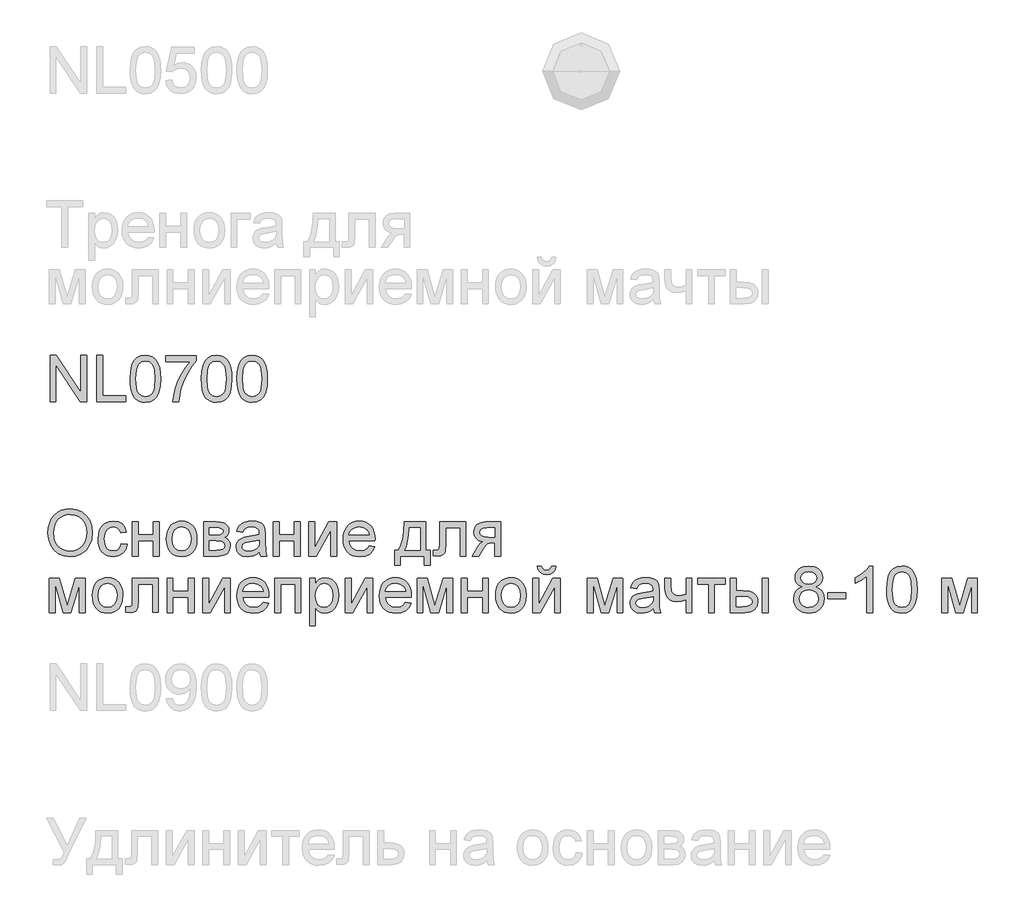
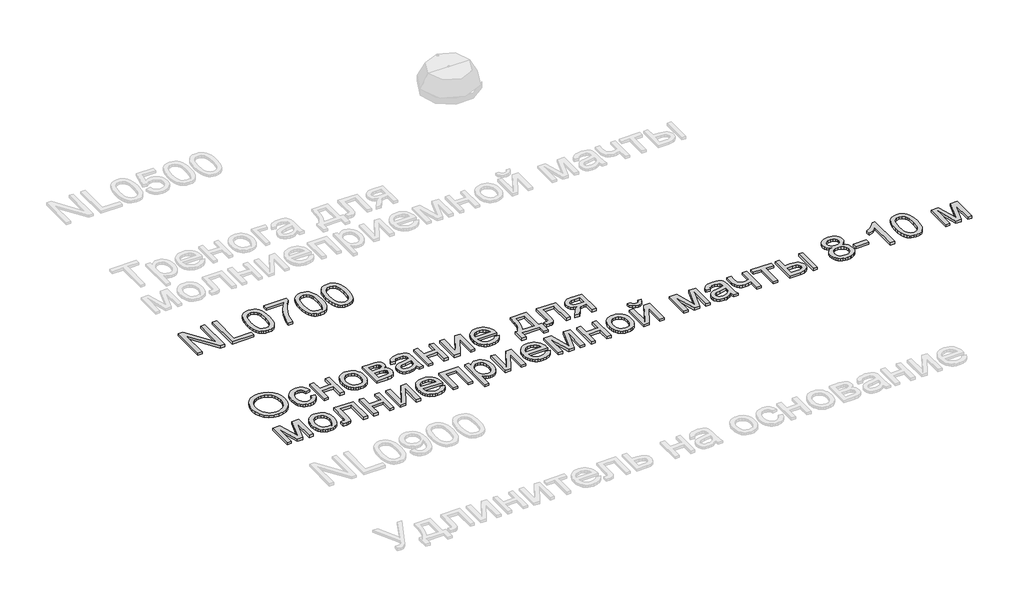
# One storey, part 54 of 124: 2 proxies.
"""IFC4 building model written with IfcOpenShell, lengths in millimetres."""

from ifc_helpers import new_model, si_unit, origin, origin_with_axes, place, context, project, spatial, polyline, outline, extrude, element, save

model = new_model("IFC4")

# Units and contexts
model_context = context("Model", 3, world=origin())
ifc_project = project(units=[si_unit("LENGTHUNIT", "METRE", prefix="MILLI")], contexts=[model_context])

# Site, building, storey
site = spatial("IfcSite", under=ifc_project)
building = spatial("IfcBuilding", under=site)
storey = spatial("IfcBuildingStorey", under=building, Name="Этаж 01", Elevation=0.0)

# Proxies
placement = place(None, origin())
element("IfcBuildingElementProxy", 1, Name="300", ObjectType="300", at=placement, inside=storey, context=model_context, shape_type="SweptSolid", body=[
    extrude(outline(polyline([(1299.8220677, -59074.498362), (1299.8220677, -58773.1294316), (1340.1419344, -58773.1294316), (1497.5954283, -59011.8848464), (1497.5954283, -58773.1294316), (1535.2665446, -58773.1294316), (1535.2665446, -59074.498362), (1494.9466779, -59074.498362), (1337.493184, -58835.6693707), (1337.493184, -59074.498362), (1299.8220677, -59074.498362)])), origin_with_axes(), (0.0, 0.0, 1.0), 20.0),
    extrude(outline(polyline([(1601.1909981, -59074.498362), (1601.1909981, -58773.1294316), (1638.8621144, -58773.1294316), (1638.8621144, -59036.8272457), (1789.5465797, -59036.8272457), (1789.5465797, -59074.498362), (1601.1909981, -59074.498362)])), origin_with_axes(), (0.0, 0.0, 1.0), 20.0),
    extrude(outline(polyline([(1817.7999169, -58926.2419179), (1820.5682289, -58878.0033913), (1828.873165, -58839.5321317), (1842.6319516, -58810.2395278), (1861.7618153, -58789.5369685), (1886.400712, -58777.2313158), (1916.6865972, -58773.1294316), (1939.8999511, -58775.5574527), (1960.6852838, -58782.8415162), (1978.0677081, -58794.6965135), (1991.0723366, -58810.8373361), (2000.8947859, -58831.1260281), (2008.7306724, -58855.4246339), (2013.8626262, -58886.2807362), (2015.5732775, -58926.2419179), (2012.8325566, -58974.2045331), (2004.6103941, -59012.5838222), (1990.9343809, -59041.9040172), (1971.8321083, -59062.68935), (1947.1380294, -59075.0777761), (1916.6865972, -59079.2072515), (1895.9380527, -59077.4138268), (1877.5439529, -59072.0335526), (1861.5042979, -59063.066429), (1847.8190877, -59050.5124559), (1834.6857005, -59027.8187353), (1825.3047096, -58999.5424055), (1819.6761151, -58965.6834664), (1817.7999169, -58926.2419179)]), holes=[polyline([(1855.4710332, -58926.1683415), (1859.8856172, -58985.4249339), (1865.4038471, -59005.6929326), (1873.129369, -59019.7207329), (1892.8478439, -59036.0822847), (1916.6865972, -59041.5361352), (1940.5253505, -59036.0638906), (1960.2438254, -59019.6471565), (1967.9693473, -59005.5963636), (1973.4875773, -58985.3329634), (1977.9021612, -58926.1683415), (1973.6347301, -58868.2453214), (1968.3004411, -58848.0440013), (1960.8324366, -58833.682808), (1941.1507499, -58816.5211129), (1916.2451388, -58810.8005479), (1892.6639029, -58815.8405312), (1873.7179802, -58830.9604812), (1865.7349409, -58846.595466), (1860.0327699, -58867.6751043), (1855.4710332, -58926.1683415)])]), origin_with_axes(), (0.0, 0.0, 1.0), 20.0),
    extrude(outline(polyline([(2048.5355043, -58815.5094374), (2048.5355043, -58777.8383211), (2246.3088649, -58777.8383211), (2246.3088649, -58808.2989503), (2218.119907, -58843.9743068), (2190.2068606, -58889.3433538), (2165.5863581, -58940.267419), (2147.2750318, -58992.6078299), (2138.2987111, -59031.7688683), (2133.295516, -59074.498362), (2095.6243997, -59074.498362), (2099.6986928, -59035.6684174), (2110.5971969, -58989.5176211), (2128.0256064, -58940.5985128), (2151.6896157, -58893.4636322), (2179.3175536, -58850.8537001), (2208.6377486, -58815.5094374), (2048.5355043, -58815.5094374)])), origin_with_axes(), (0.0, 0.0, 1.0), 20.0),
    extrude(outline(polyline([(2279.2710917, -58926.2419179), (2282.0394037, -58878.0033913), (2290.3443397, -58839.5321317), (2304.1031263, -58810.2395278), (2323.2329901, -58789.5369685), (2347.8718867, -58777.2313158), (2378.157772, -58773.1294316), (2401.3711259, -58775.5574527), (2422.1564586, -58782.8415162), (2439.5388829, -58794.6965135), (2452.5435114, -58810.8373361), (2462.3659607, -58831.1260281), (2470.2018471, -58855.4246339), (2475.333801, -58886.2807362), (2477.0444523, -58926.2419179), (2474.3037314, -58974.2045331), (2466.0815688, -59012.5838222), (2452.4055556, -59041.9040172), (2433.303283, -59062.68935), (2408.6092041, -59075.0777761), (2378.157772, -59079.2072515), (2357.4092274, -59077.4138268), (2339.0151277, -59072.0335526), (2322.9754727, -59063.066429), (2309.2902625, -59050.5124559), (2296.1568752, -59027.8187353), (2286.7758844, -58999.5424055), (2281.1472898, -58965.6834664), (2279.2710917, -58926.2419179)]), holes=[polyline([(2316.942208, -58926.1683415), (2321.3567919, -58985.4249339), (2326.8750218, -59005.6929326), (2334.6005437, -59019.7207329), (2354.3190187, -59036.0822847), (2378.157772, -59041.5361352), (2401.9965252, -59036.0638906), (2421.7150002, -59019.6471565), (2429.4405221, -59005.5963636), (2434.958752, -58985.3329634), (2439.373336, -58926.1683415), (2435.1059048, -58868.2453214), (2429.7716159, -58848.0440013), (2422.3036114, -58833.682808), (2402.6219246, -58816.5211129), (2377.7163136, -58810.8005479), (2354.1350777, -58815.8405312), (2335.1891549, -58830.9604812), (2327.2061156, -58846.595466), (2321.5039447, -58867.6751043), (2316.942208, -58926.1683415)])]), origin_with_axes(), (0.0, 0.0, 1.0), 20.0),
    extrude(outline(polyline([(2510.006679, -58926.2419179), (2512.774991, -58878.0033913), (2521.0799271, -58839.5321317), (2534.8387137, -58810.2395278), (2553.9685775, -58789.5369685), (2578.6074741, -58777.2313158), (2608.8933593, -58773.1294316), (2632.1067132, -58775.5574527), (2652.892046, -58782.8415162), (2670.2744702, -58794.6965135), (2683.2790988, -58810.8373361), (2693.101548, -58831.1260281), (2700.9374345, -58855.4246339), (2706.0693884, -58886.2807362), (2707.7800396, -58926.2419179), (2705.0393188, -58974.2045331), (2696.8171562, -59012.5838222), (2683.141143, -59041.9040172), (2664.0388704, -59062.68935), (2639.3447915, -59075.0777761), (2608.8933593, -59079.2072515), (2588.1448148, -59077.4138268), (2569.750715, -59072.0335526), (2553.7110601, -59063.066429), (2540.0258498, -59050.5124559), (2526.8924626, -59027.8187353), (2517.5114717, -58999.5424055), (2511.8828772, -58965.6834664), (2510.006679, -58926.2419179)]), holes=[polyline([(2547.6777953, -58926.1683415), (2552.0923793, -58985.4249339), (2557.6106092, -59005.6929326), (2565.3361311, -59019.7207329), (2585.054606, -59036.0822847), (2608.8933593, -59041.5361352), (2632.7321126, -59036.0638906), (2652.4505876, -59019.6471565), (2660.1761095, -59005.5963636), (2665.6943394, -58985.3329634), (2670.1089233, -58926.1683415), (2665.8414922, -58868.2453214), (2660.5072033, -58848.0440013), (2653.0391988, -58833.682808), (2633.357512, -58816.5211129), (2608.4519009, -58810.8005479), (2584.870665, -58815.8405312), (2565.9247423, -58830.9604812), (2557.941703, -58846.595466), (2552.2395321, -58867.6751043), (2547.6777953, -58926.1683415)])]), origin_with_axes(), (0.0, 0.0, 1.0), 20.0),
])
element("IfcBuildingElementProxy", 2, Name="300", ObjectType="300", at=placement, inside=storey, context=model_context, shape_type="SweptSolid", body=[
    extrude(outline(polyline([(1285.6953991, -59927.7870223), (1288.2061937, -59892.4381611), (1295.7385775, -59861.1451989), (1308.2925506, -59833.9081357), (1325.868113, -59810.7269715), (1347.4122023, -59792.2179086), (1371.8717564, -59778.9971494), (1399.2467754, -59771.0646939), (1429.5372592, -59768.420542), (1469.0661796, -59773.3869489), (1504.5116098, -59788.2861698), (1533.9421694, -59812.0697407), (1555.4264779, -59843.6891982), (1568.5598652, -59881.6178319), (1572.9376609, -59924.3289316), (1568.3299389, -59967.6102483), (1554.506773, -60006.0723109), (1532.2315181, -60037.7469507), (1502.2675296, -60060.665999), (1467.1256021, -60074.5719384), (1429.31653, -60079.2072515), (1389.1806043, -60074.0844948), (1353.532839, -60058.7162244), (1324.1758558, -60034.491195), (1302.9122765, -60002.7981611), (1289.9996184, -59966.3318584), (1285.6953991, -59927.7870223)]), holes=[polyline([(1323.3665154, -59928.1549043), (1325.2496113, -59953.1294933), (1330.8988992, -59975.298982), (1340.3143791, -59994.6633705), (1353.4960508, -60011.2226588), (1369.5196109, -60024.4848048), (1387.460756, -60033.9577661), (1407.3194859, -60039.641543), (1429.0958008, -60041.5361352), (1451.2445962, -60039.6231489), (1471.3378509, -60033.8841897), (1489.375565, -60024.3192579), (1505.3577384, -60010.9283532), (1518.4428411, -59994.019577), (1527.7893431, -59973.9010304), (1533.3972442, -59950.5727134), (1535.2665446, -59924.034626), (1532.0659712, -59890.6861231), (1522.4642512, -59861.8625688), (1506.7097047, -59838.2905299), (1485.0506523, -59820.6965735), (1458.9218336, -59809.7428871), (1429.7579884, -59806.0916583), (1408.7381309, -59807.8505941), (1389.2357866, -59813.1274015), (1371.2509556, -59821.9220804), (1354.7836378, -59834.234631), (1341.0386467, -59850.6582628), (1331.220796, -59871.7861856), (1325.3300855, -59897.6183995), (1323.3665154, -59928.1549043)])]), origin_with_axes(), (0.0, 0.0, 1.0), 20.0),
    extrude(outline(polyline([(1761.2932424, -59994.4472399), (1798.9643587, -59999.1561294), (1788.4613278, -60032.6609821), (1768.7244587, -60057.9804604), (1741.6115557, -60073.9005538), (1708.9804227, -60079.2072515), (1687.8524999, -60077.3563453), (1668.9088764, -60071.8036264), (1652.1495523, -60062.5490949), (1637.5745275, -60049.5927509), (1625.7770117, -60033.1783162), (1617.3502148, -60013.5495125), (1612.2941366, -59990.7063398), (1610.6087772, -59964.6487982), (1613.4874538, -59931.1255514), (1622.1234837, -59902.0720709), (1636.6548225, -59878.6103966), (1657.219426, -59861.8625688), (1681.8215344, -59851.8193903), (1708.4653879, -59848.4716642), (1740.2963776, -59853.0701891), (1765.7446146, -59866.8657639), (1784.0007586, -59889.1226246), (1794.2554692, -59919.1050072), (1756.5843529, -59923.8138968), (1749.7509448, -59907.3787686), (1739.1099581, -59895.5973477), (1725.250004, -59888.5064223), (1708.7596935, -59886.1427805), (1684.4151025, -59890.7964877), (1665.0921007, -59904.7576094), (1652.4829453, -59928.7803037), (1648.2798935, -59963.6187287), (1652.3909748, -59998.9262031), (1664.7242187, -60023.0316709), (1683.6977326, -60036.9100191), (1707.7296239, -60041.5361352), (1727.2365667, -60038.6482616), (1743.2302365, -60029.9846406), (1754.8645046, -60015.3245431), (1761.2932424, -59994.4472399)])), origin_with_axes(), (0.0, 0.0, 1.0), 20.0),
    extrude(outline(polyline([(1831.9265855, -59853.1805537), (1869.5977018, -59853.1805537), (1869.5977018, -59937.9405654), (1968.4843821, -59937.9405654), (1968.4843821, -59853.1805537), (2006.1554984, -59853.1805537), (2006.1554984, -60074.498362), (1968.4843821, -60074.498362), (1968.4843821, -59975.6116817), (1869.5977018, -59975.6116817), (1869.5977018, -60074.498362), (1831.9265855, -60074.498362), (1831.9265855, -59853.1805537)])), origin_with_axes(), (0.0, 0.0, 1.0), 20.0),
    extrude(outline(polyline([(2053.2443938, -59963.8394579), (2055.2815404, -59935.1768519), (2061.39298, -59910.4781745), (2071.5787128, -59889.7434255), (2085.8387386, -59872.972605), (2100.1953335, -59862.2534434), (2116.0418504, -59854.5968994), (2133.3782894, -59850.002973), (2152.2046505, -59848.4716642), (2172.987684, -59850.336366), (2191.7795561, -59855.9304716), (2208.580267, -59865.2539809), (2223.3898166, -59878.306894), (2235.4770394, -59894.6477523), (2244.11077, -59913.8350977), (2249.2910083, -59935.8689299), (2251.0177544, -59960.7492491), (2247.9643339, -59998.8066415), (2238.8040722, -60027.7773486), (2223.8036838, -60049.4731893), (2203.2298832, -60065.7059823), (2178.7933217, -60075.8319342), (2152.2046505, -60079.2072515), (2131.1181144, -60077.3494475), (2112.1514983, -60071.7760352), (2095.3048022, -60062.4870149), (2080.5780261, -60049.4823863), (2068.619562, -60032.9828788), (2060.0778019, -60013.2092216), (2054.9527458, -59990.1614146), (2053.2443938, -59963.8394579)]), holes=[polyline([(2090.9155101, -59963.7658815), (2095.2749118, -59997.8593454), (2108.3531167, -60022.1487541), (2128.0348034, -60036.6892899), (2152.2046505, -60041.5361352), (2176.264133, -60036.6616988), (2195.9090315, -60022.0383895), (2208.9872365, -59997.427084), (2213.3466381, -59962.5886591), (2208.9596453, -59929.4884766), (2195.7986669, -59905.5301616), (2176.1261773, -59890.9896258), (2152.2046505, -59886.1427805), (2128.0348034, -59890.9712317), (2108.3531167, -59905.4565852), (2095.2749118, -59929.6908117), (2090.9155101, -59963.7658815)])]), origin_with_axes(), (0.0, 0.0, 1.0), 20.0),
    extrude(outline(polyline([(2293.3977603, -59853.1805537), (2376.3919384, -59853.1805537), (2403.0725801, -59854.4405495), (2421.8989412, -59858.220537), (2435.7496983, -59865.3574477), (2447.503528, -59876.6882132), (2455.5325526, -59891.4494783), (2458.2088941, -59908.8778878), (2456.5902133, -59922.9217829), (2451.734171, -59935.0342976), (2443.622373, -59945.2706141), (2432.2364252, -59953.6859148), (2446.1791529, -59961.5126042), (2457.5467065, -59974.1033655), (2465.1066815, -59990.4649173), (2467.6266732, -60009.6039781), (2461.2439206, -60038.3171678), (2446.0687883, -60058.5322834), (2422.046094, -60070.5068424), (2389.1206554, -60074.498362), (2293.3977603, -60074.498362), (2293.3977603, -59853.1805537)]), holes=[polyline([(2331.0688766, -60036.8272457), (2377.2748552, -60036.8272457), (2402.4563777, -60035.1257915), (2418.2569094, -60030.0214288), (2426.7365894, -60020.7416055), (2429.9555569, -60006.5137693), (2428.3460731, -59997.0867932), (2423.517622, -59988.3771869), (2416.1047998, -59981.562173), (2406.742203, -59977.8189737), (2373.5960352, -59975.6116817), (2331.0688766, -59975.6116817), (2331.0688766, -60036.8272457)]), polyline([(2331.0688766, -59937.9405654), (2368.2985345, -59937.9405654), (2399.0166811, -59936.027579), (2413.9526901, -59928.3756335), (2418.8915059, -59922.0480632), (2420.5377778, -59914.5432705), (2417.6499041, -59903.3044755), (2408.9862832, -59896.0755943), (2393.3329043, -59892.1576511), (2369.4757569, -59890.85167), (2331.0688766, -59890.85167), (2331.0688766, -59937.9405654)])]), origin_with_axes(), (0.0, 0.0, 1.0), 20.0),
    extrude(outline(polyline([(2655.9822547, -60046.2450248), (2637.9836281, -60061.6776745), (2619.4515726, -60071.7760352), (2599.9630239, -60077.3494475), (2579.0949177, -60079.2072515), (2547.613416, -60074.7374853), (2524.390865, -60061.3281866), (2510.0710584, -60040.9659181), (2505.2977895, -60015.6372428), (2507.1004113, -60000.0206521), (2512.5082766, -59985.8388012), (2520.8500008, -59973.6986953), (2531.4541993, -59964.2073398), (2557.8313384, -59951.8465048), (2590.4256832, -59946.1811221), (2628.9429281, -59940.2214338), (2655.7615255, -59933.2316759), (2655.9822547, -59924.8439664), (2653.3886866, -59908.0317592), (2645.6079824, -59897.0320875), (2628.2071641, -59888.8651072), (2603.9637406, -59886.1427805), (2581.5229389, -59887.9545993), (2565.8511659, -59893.3900558), (2555.1641939, -59903.4424313), (2547.6777953, -59919.1050072), (2510.006679, -59914.3961177), (2516.5457815, -59893.794726), (2526.3038514, -59877.6079182), (2540.1913967, -59865.228689), (2559.1189254, -59856.0500333), (2582.2678999, -59850.3662564), (2608.8197829, -59848.4716642), (2634.286414, -59850.1455272), (2654.4739385, -59855.1671165), (2669.6950561, -59862.7178944), (2680.2624664, -59871.9793237), (2687.2706184, -59883.4296508), (2691.813961, -59897.5471223), (2693.653371, -59930.5093491), (2693.653371, -59977.3775153), (2695.5663574, -60042.8237222), (2703.0711501, -60074.498362), (2665.4000338, -60074.498362), (2655.9822547, -60046.2450248)]), holes=[polyline([(2655.9822547, -59970.9027922), (2595.2081491, -59982.4542868), (2562.7977453, -59988.5611279), (2548.1192537, -59998.4939418), (2542.9689058, -60012.9884924), (2545.774006, -60024.1904992), (2554.1893066, -60033.3691549), (2568.0308667, -60039.4943902), (2587.1147452, -60041.5361352), (2607.348255, -60039.282858), (2625.2273199, -60032.5230264), (2639.7218705, -60022.5626213), (2649.8018372, -60010.707624), (2654.2716034, -59998.4939418), (2655.7615255, -59981.57137), (2655.9822547, -59970.9027922)])]), origin_with_axes(), (0.0, 0.0, 1.0), 20.0),
    extrude(outline(polyline([(2745.4511559, -59853.1805537), (2783.1222722, -59853.1805537), (2783.1222722, -59937.9405654), (2882.0089526, -59937.9405654), (2882.0089526, -59853.1805537), (2919.6800689, -59853.1805537), (2919.6800689, -60074.498362), (2882.0089526, -60074.498362), (2882.0089526, -59975.6116817), (2783.1222722, -59975.6116817), (2783.1222722, -60074.498362), (2745.4511559, -60074.498362), (2745.4511559, -59853.1805537)])), origin_with_axes(), (0.0, 0.0, 1.0), 20.0),
    extrude(outline(polyline([(2976.1867433, -59853.1805537), (3013.8578596, -59853.1805537), (3013.8578596, -60021.9648131), (3106.4169696, -59853.1805537), (3155.1245458, -59853.1805537), (3155.1245458, -60074.498362), (3117.4534295, -60074.498362), (3117.4534295, -59906.7441722), (3025.4829307, -60074.498362), (2976.1867433, -60074.498362), (2976.1867433, -59853.1805537)])), origin_with_axes(), (0.0, 0.0, 1.0), 20.0),
    extrude(outline(polyline([(3366.5831166, -60008.5739085), (3403.5184689, -60013.282798), (3390.2103377, -60041.1130709), (3368.9743496, -60061.9167978), (3340.288751, -60074.8846381), (3304.6317886, -60079.2072515), (3281.2574863, -60077.3425497), (3260.4307669, -60071.7484441), (3242.1516303, -60062.4249348), (3226.4200764, -60049.3720217), (3213.7695343, -60032.9529884), (3204.7334328, -60013.5311184), (3199.3117719, -59991.1064115), (3197.5045516, -59965.6788678), (3199.330166, -59939.3891007), (3204.8070092, -59916.2171336), (3213.9350812, -59896.1629663), (3226.714382, -59879.226599), (3242.4045491, -59865.771315), (3260.26522, -59856.1603979), (3280.2963946, -59850.3938476), (3302.498073, -59848.4716642), (3323.9846808, -59850.3892491), (3343.415748, -59856.1420038), (3360.7912744, -59865.7299283), (3376.1112603, -59879.1530226), (3388.6169488, -59896.0526017), (3397.5495835, -59916.0699808), (3402.9091644, -59939.2051598), (3404.6956913, -59965.4581386), (3404.4749621, -59975.6116817), (3235.1756679, -59975.6116817), (3241.6963763, -60003.8098366), (3256.8439174, -60024.5399871), (3278.705305, -60037.2870982), (3305.3675526, -60041.5361352), (3325.4171213, -60039.5679666), (3342.3029049, -60033.6634605), (3356.0249033, -60023.4547352), (3366.5831166, -60008.5739085)]), holes=[polyline([(3235.1756679, -59937.9405654), (3367.024575, -59937.9405654), (3361.9294094, -59918.0381495), (3351.9414132, -59903.8011162), (3329.9788581, -59890.5573644), (3302.3509202, -59886.1427805), (3276.9578655, -59889.6652506), (3255.9610006, -59900.2326609), (3241.3652825, -59916.7045772), (3235.1756679, -59937.9405654)])]), origin_with_axes(), (0.0, 0.0, 1.0), 20.0),
    extrude(outline(polyline([(3593.0512728, -59853.1805537), (3734.317959, -59853.1805537), (3734.317959, -60036.8272457), (3762.5712962, -60036.8272457), (3762.5712962, -60135.713926), (3724.9001799, -60135.713926), (3724.9001799, -60074.498362), (3569.5068251, -60074.498362), (3569.5068251, -60135.713926), (3531.8357088, -60135.713926), (3531.8357088, -60036.8272457), (3555.3801565, -60036.8272457), (3572.4958663, -60005.897567), (3584.4796223, -59964.979892), (3591.3314245, -59914.074221), (3593.0512728, -59853.1805537)]), holes=[polyline([(3626.0134996, -59890.85167), (3622.9232908, -59936.9748752), (3617.1843317, -59976.6785395), (3608.7966222, -60009.962663), (3597.7601624, -60036.8272457), (3696.6468427, -60036.8272457), (3696.6468427, -59890.85167), (3626.0134996, -59890.85167)])]), origin_with_axes(), (0.0, 0.0, 1.0), 20.0),
    extrude(outline(polyline([(3823.7868602, -59853.1805537), (3993.3068836, -59853.1805537), (3993.3068836, -60074.2776328), (3955.6357673, -60074.2776328), (3955.6357673, -59890.85167), (3861.4579765, -59890.85167), (3861.4579765, -59996.4338026), (3858.9195907, -60045.1413788), (3854.164716, -60056.1686416), (3844.9768631, -60065.7059823), (3831.0341355, -60072.3002671), (3812.0146364, -60074.498362), (3781.4068544, -60072.5853756), (3781.4068544, -60036.8272457), (3798.2558497, -60036.8272457), (3815.2887861, -60034.5095891), (3822.094603, -60027.1519492), (3823.7868602, -59994.3000871), (3823.7868602, -59853.1805537)])), origin_with_axes(), (0.0, 0.0, 1.0), 20.0),
    extrude(outline(polyline([(4219.3335814, -59853.1805537), (4219.3335814, -60074.498362), (4181.6624651, -60074.498362), (4181.6624651, -59989.7383503), (4161.1346498, -59989.7383503), (4133.1756181, -59994.5208163), (4122.0103996, -60004.9502708), (4106.9088437, -60026.6737026), (4076.8896729, -60074.498362), (4033.3324447, -60074.498362), (4071.1507138, -60014.018562), (4087.8525563, -59992.3135243), (4103.2300237, -59982.675016), (4077.4782841, -59974.7839472), (4059.3784899, -59959.7927559), (4048.6731239, -59939.8535518), (4045.1046685, -59917.1184445), (4049.9791049, -59891.3299166), (4064.6024142, -59870.9124659), (4088.4595616, -59857.6135317), (4121.0355123, -59853.1805537), (4219.3335814, -59853.1805537)]), holes=[polyline([(4181.6624651, -59890.85167), (4131.9983958, -59890.85167), (4106.3478236, -59893.0313708), (4091.7888937, -59899.5704733), (4085.029062, -59909.0342376), (4082.7757848, -59919.987924), (4086.0959198, -59934.3445189), (4096.0563248, -59944.3049239), (4114.4596216, -59950.1266565), (4143.108432, -59952.067234), (4181.6624651, -59952.067234), (4181.6624651, -59890.85167)])]), origin_with_axes(), (0.0, 0.0, 1.0), 20.0),
    extrude(outline(polyline([(1295.1131782, -60219.1050072), (1359.9339857, -60219.1050072), (1409.8923607, -60396.2769761), (1463.7502847, -60219.1050072), (1525.8487655, -60219.1050072), (1525.8487655, -60440.4228155), (1488.1776492, -60440.4228155), (1488.1776492, -60262.2207771), (1434.0254195, -60440.4228155), (1384.5820794, -60440.4228155), (1332.7842945, -60253.6859148), (1332.7842945, -60440.4228155), (1295.1131782, -60440.4228155), (1295.1131782, -60219.1050072)])), origin_with_axes(), (0.0, 0.0, 1.0), 20.0),
    extrude(outline(polyline([(1572.9376609, -60329.7639114), (1574.9748075, -60301.1013054), (1581.0862471, -60276.402628), (1591.2719798, -60255.667879), (1605.5320057, -60238.8970586), (1619.8886005, -60228.1778969), (1635.7351175, -60220.5213529), (1653.0715565, -60215.9274265), (1671.8979176, -60214.3961177), (1692.6809511, -60216.2608196), (1711.4728232, -60221.8549252), (1728.2735341, -60231.1784345), (1743.0830837, -60244.2313475), (1755.1703065, -60260.5722059), (1763.8040371, -60279.7595512), (1768.9842754, -60301.7933834), (1770.7110215, -60326.6737026), (1767.657601, -60364.731095), (1758.4973393, -60393.7018022), (1743.4969509, -60415.3976428), (1722.9231503, -60431.6304359), (1698.4865888, -60441.7563878), (1671.8979176, -60445.1317051), (1650.8113815, -60443.273901), (1631.8447654, -60437.7004888), (1614.9980693, -60428.4114684), (1600.2712932, -60415.4068399), (1588.312829, -60398.9073324), (1579.771069, -60379.1336751), (1574.6460129, -60356.0858681), (1572.9376609, -60329.7639114)]), holes=[polyline([(1610.6087772, -60329.690335), (1614.9681789, -60363.7837989), (1628.0463838, -60388.0732076), (1647.7280705, -60402.6137435), (1671.8979176, -60407.4605888), (1695.9574001, -60402.5861523), (1715.6022986, -60387.962843), (1728.6805036, -60363.3515375), (1733.0399052, -60328.5131126), (1728.6529124, -60295.4129301), (1715.491934, -60271.4546152), (1695.8194444, -60256.9140793), (1671.8979176, -60252.067234), (1647.7280705, -60256.8956852), (1628.0463838, -60271.3810388), (1614.9681789, -60295.6152652), (1610.6087772, -60329.690335)])]), origin_with_axes(), (0.0, 0.0, 1.0), 20.0),
    extrude(outline(polyline([(1831.9265855, -60219.1050072), (2001.4466089, -60219.1050072), (2001.4466089, -60440.2020863), (1963.7754926, -60440.2020863), (1963.7754926, -60256.7761235), (1869.5977018, -60256.7761235), (1869.5977018, -60362.3582562), (1867.0593161, -60411.0658323), (1862.3044413, -60422.0930951), (1853.1165884, -60431.6304359), (1839.1738608, -60438.2247206), (1820.1543617, -60440.4228155), (1789.5465797, -60438.5098292), (1789.5465797, -60402.7516992), (1806.3955751, -60402.7516992), (1823.4285114, -60400.4340427), (1830.2343283, -60393.0764028), (1831.9265855, -60360.2245406), (1831.9265855, -60219.1050072)])), origin_with_axes(), (0.0, 0.0, 1.0), 20.0),
    extrude(outline(polyline([(2057.9532834, -60219.1050072), (2095.6243997, -60219.1050072), (2095.6243997, -60303.8650189), (2194.51108, -60303.8650189), (2194.51108, -60219.1050072), (2232.1821963, -60219.1050072), (2232.1821963, -60440.4228155), (2194.51108, -60440.4228155), (2194.51108, -60341.5361352), (2095.6243997, -60341.5361352), (2095.6243997, -60440.4228155), (2057.9532834, -60440.4228155), (2057.9532834, -60219.1050072)])), origin_with_axes(), (0.0, 0.0, 1.0), 20.0),
    extrude(outline(polyline([(2288.6888707, -60219.1050072), (2326.359987, -60219.1050072), (2326.359987, -60387.8892666), (2418.919097, -60219.1050072), (2467.6266732, -60219.1050072), (2467.6266732, -60440.4228155), (2429.9555569, -60440.4228155), (2429.9555569, -60272.6686257), (2337.9850581, -60440.4228155), (2288.6888707, -60440.4228155), (2288.6888707, -60219.1050072)])), origin_with_axes(), (0.0, 0.0, 1.0), 20.0),
    extrude(outline(polyline([(2679.085244, -60374.498362), (2716.0205963, -60379.2072515), (2702.7124652, -60407.0375245), (2681.476477, -60427.8412513), (2652.7908784, -60440.8090916), (2617.133916, -60445.1317051), (2593.7596138, -60443.2670032), (2572.9328943, -60437.6728976), (2554.6537577, -60428.3493883), (2538.9222038, -60415.2964753), (2526.2716617, -60398.877442), (2517.2355602, -60379.4555719), (2511.8138993, -60357.030865), (2510.006679, -60331.6033214), (2511.8322934, -60305.3135543), (2517.3091366, -60282.1415871), (2526.4372086, -60262.0874199), (2539.2165094, -60245.1510525), (2554.9066765, -60231.6957685), (2572.7673474, -60222.0848514), (2592.798522, -60216.3183011), (2615.0002005, -60214.3961177), (2636.4868082, -60216.3137026), (2655.9178754, -60222.0664573), (2673.2934018, -60231.6543818), (2688.6133877, -60245.0774761), (2701.1190763, -60261.9770553), (2710.051711, -60281.9944343), (2715.4112918, -60305.1296133), (2717.1978187, -60331.3825922), (2716.9770895, -60341.5361352), (2547.6777953, -60341.5361352), (2554.1985037, -60369.7342902), (2569.3460448, -60390.4644406), (2591.2074324, -60403.2115517), (2617.86968, -60407.4605888), (2637.9192488, -60405.4924201), (2654.8050323, -60399.5879141), (2668.5270307, -60389.3791887), (2679.085244, -60374.498362)]), holes=[polyline([(2547.6777953, -60303.8650189), (2679.5267024, -60303.8650189), (2674.4315368, -60283.962603), (2664.4435406, -60269.7255698), (2642.4809855, -60256.4818179), (2614.8530477, -60252.067234), (2589.4599929, -60255.5897041), (2568.4631281, -60266.1571144), (2553.8674099, -60282.6290308), (2547.6777953, -60303.8650189)])]), origin_with_axes(), (0.0, 0.0, 1.0), 20.0),
    extrude(outline(polyline([(2754.868935, -60219.1050072), (2924.3889584, -60219.1050072), (2924.3889584, -60440.4228155), (2886.7178421, -60440.4228155), (2886.7178421, -60256.7761235), (2792.5400513, -60256.7761235), (2792.5400513, -60440.4228155), (2754.868935, -60440.4228155), (2754.868935, -60219.1050072)])), origin_with_axes(), (0.0, 0.0, 1.0), 20.0),
    extrude(outline(polyline([(2980.8956329, -60525.1828272), (2980.8956329, -60219.1050072), (3018.5667492, -60219.1050072), (3018.5667492, -60256.0403596), (3030.8540078, -60237.8210037), (3044.6127944, -60224.8071782), (3060.6524494, -60216.9988828), (3079.7823132, -60214.3961177), (3105.2581413, -60218.0381495), (3127.5333961, -60228.9642447), (3145.6699785, -60246.5122159), (3158.7297893, -60270.0198754), (3166.6208581, -60297.7765719), (3169.2512144, -60328.0716542), (3166.2805673, -60360.2889199), (3157.3686259, -60389.1032772), (3142.8004989, -60413.0523951), (3122.8612948, -60430.6739427), (3099.6387438, -60441.5172645), (3075.2205764, -60445.1317051), (3057.9025315, -60442.712881), (3042.4422906, -60435.4564086), (3029.2077359, -60424.5027222), (3018.5667492, -60410.9922559), (3018.5667492, -60525.1828272), (2980.8956329, -60525.1828272)]), holes=[polyline([(3018.5667492, -60331.529745), (3022.6410423, -60365.3013121), (3034.8639215, -60388.9193362), (3052.8993364, -60402.8252756), (3074.411236, -60407.4605888), (3096.2726236, -60402.6597287), (3114.7678909, -60388.2571486), (3127.3770463, -60363.7746018), (3131.5800981, -60328.7338418), (3127.4782138, -60295.1462156), (3115.1725611, -60271.1970978), (3097.1647374, -60256.8496999), (3075.9563404, -60252.067234), (3054.6651699, -60257.1532026), (3035.9675675, -60272.4111083), (3022.9169538, -60297.3627047), (3018.5667492, -60331.529745)])]), origin_with_axes(), (0.0, 0.0, 1.0), 20.0),
    extrude(outline(polyline([(3211.6312202, -60219.1050072), (3249.3023365, -60219.1050072), (3249.3023365, -60387.8892666), (3341.8614465, -60219.1050072), (3390.5690227, -60219.1050072), (3390.5690227, -60440.4228155), (3352.8979064, -60440.4228155), (3352.8979064, -60272.6686257), (3260.9274076, -60440.4228155), (3211.6312202, -60440.4228155), (3211.6312202, -60219.1050072)])), origin_with_axes(), (0.0, 0.0, 1.0), 20.0),
    extrude(outline(polyline([(3602.0275935, -60374.498362), (3638.9629458, -60379.2072515), (3625.6548147, -60407.0375245), (3604.4188265, -60427.8412513), (3575.7332279, -60440.8090916), (3540.0762655, -60445.1317051), (3516.7019633, -60443.2670032), (3495.8752438, -60437.6728976), (3477.5961072, -60428.3493883), (3461.8645533, -60415.2964753), (3449.2140112, -60398.877442), (3440.1779097, -60379.4555719), (3434.7562488, -60357.030865), (3432.9490285, -60331.6033214), (3434.7746429, -60305.3135543), (3440.2514861, -60282.1415871), (3449.3795581, -60262.0874199), (3462.1588589, -60245.1510525), (3477.849026, -60231.6957685), (3495.7096969, -60222.0848514), (3515.7408715, -60216.3183011), (3537.94255, -60214.3961177), (3559.4291577, -60216.3137026), (3578.8602249, -60222.0664573), (3596.2357513, -60231.6543818), (3611.5557372, -60245.0774761), (3624.0614258, -60261.9770553), (3632.9940605, -60281.9944343), (3638.3536413, -60305.1296133), (3640.1401682, -60331.3825922), (3639.919439, -60341.5361352), (3470.6201448, -60341.5361352), (3477.1408532, -60369.7342902), (3492.2883943, -60390.4644406), (3514.1497819, -60403.2115517), (3540.8120295, -60407.4605888), (3560.8615982, -60405.4924201), (3577.7473818, -60399.5879141), (3591.4693802, -60389.3791887), (3602.0275935, -60374.498362)]), holes=[polyline([(3470.6201448, -60303.8650189), (3602.4690519, -60303.8650189), (3597.3738863, -60283.962603), (3587.3858901, -60269.7255698), (3565.423335, -60256.4818179), (3537.7953972, -60252.067234), (3512.4023424, -60255.5897041), (3491.4054776, -60266.1571144), (3476.8097594, -60282.6290308), (3470.6201448, -60303.8650189)])]), origin_with_axes(), (0.0, 0.0, 1.0), 20.0),
    extrude(outline(polyline([(3677.8112845, -60219.1050072), (3742.6320921, -60219.1050072), (3792.590467, -60396.2769761), (3846.4483911, -60219.1050072), (3908.5468719, -60219.1050072), (3908.5468719, -60440.4228155), (3870.8757556, -60440.4228155), (3870.8757556, -60262.2207771), (3816.7235259, -60440.4228155), (3767.2801857, -60440.4228155), (3715.4824008, -60253.6859148), (3715.4824008, -60440.4228155), (3677.8112845, -60440.4228155), (3677.8112845, -60219.1050072)])), origin_with_axes(), (0.0, 0.0, 1.0), 20.0),
    extrude(outline(polyline([(3965.0535464, -60219.1050072), (4002.7246627, -60219.1050072), (4002.7246627, -60303.8650189), (4101.611343, -60303.8650189), (4101.611343, -60219.1050072), (4139.2824593, -60219.1050072), (4139.2824593, -60440.4228155), (4101.611343, -60440.4228155), (4101.611343, -60341.5361352), (4002.7246627, -60341.5361352), (4002.7246627, -60440.4228155), (3965.0535464, -60440.4228155), (3965.0535464, -60219.1050072)])), origin_with_axes(), (0.0, 0.0, 1.0), 20.0),
    extrude(outline(polyline([(4186.3713546, -60329.7639114), (4188.4085012, -60301.1013054), (4194.5199408, -60276.402628), (4204.7056736, -60255.667879), (4218.9656994, -60238.8970586), (4233.3222943, -60228.1778969), (4249.1688112, -60220.5213529), (4266.5052502, -60215.9274265), (4285.3316114, -60214.3961177), (4306.1146448, -60216.2608196), (4324.906517, -60221.8549252), (4341.7072278, -60231.1784345), (4356.5167774, -60244.2313475), (4368.6040002, -60260.5722059), (4377.2377308, -60279.7595512), (4382.4179691, -60301.7933834), (4384.1447153, -60326.6737026), (4381.0912947, -60364.731095), (4371.931033, -60393.7018022), (4356.9306447, -60415.3976428), (4336.3568441, -60431.6304359), (4311.9202826, -60441.7563878), (4285.3316114, -60445.1317051), (4264.2450752, -60443.273901), (4245.2784591, -60437.7004888), (4228.431763, -60428.4114684), (4213.7049869, -60415.4068399), (4201.7465228, -60398.9073324), (4193.2047627, -60379.1336751), (4188.0797067, -60356.0858681), (4186.3713546, -60329.7639114)]), holes=[polyline([(4224.042471, -60329.690335), (4228.4018726, -60363.7837989), (4241.4800775, -60388.0732076), (4261.1617643, -60402.6137435), (4285.3316114, -60407.4605888), (4309.3910938, -60402.5861523), (4329.0359924, -60387.962843), (4342.1141973, -60363.3515375), (4346.4735989, -60328.5131126), (4342.0866062, -60295.4129301), (4328.9256278, -60271.4546152), (4309.2531381, -60256.9140793), (4285.3316114, -60252.067234), (4261.1617643, -60256.8956852), (4241.4800775, -60271.3810388), (4228.4018726, -60295.6152652), (4224.042471, -60329.690335)])]), origin_with_axes(), (0.0, 0.0, 1.0), 20.0),
    extrude(outline(polyline([(4426.5247211, -60219.1050072), (4464.1958374, -60219.1050072), (4464.1958374, -60387.8892666), (4556.7549474, -60219.1050072), (4605.4625236, -60219.1050072), (4605.4625236, -60440.4228155), (4567.7914072, -60440.4228155), (4567.7914072, -60272.6686257), (4475.8209085, -60440.4228155), (4426.5247211, -60440.4228155), (4426.5247211, -60219.1050072)])), origin_with_axes(), (0.0, 0.0, 1.0), 20.0),
    extrude(outline(polyline([(4548.9558491, -60139.0538851), (4577.2091863, -60139.0538851), (4571.1299364, -60163.1777469), (4558.9254512, -60180.9556443), (4541.1475537, -60191.9093307), (4518.3480671, -60195.5605595), (4493.6080029, -60191.9369219), (4474.4229569, -60181.0660089), (4461.3079637, -60163.3157027), (4454.7780583, -60139.0538851), (4483.0313956, -60139.0538851), (4487.0045211, -60151.4607054), (4493.626397, -60160.2806762), (4502.9338115, -60165.5505858), (4514.9635527, -60167.3072223), (4528.5383984, -60165.6057681), (4538.3608476, -60160.5014054), (4544.9827235, -60151.7366169), (4548.9558491, -60139.0538851)])), origin_with_axes(), (0.0, 0.0, 1.0), 20.0),
    extrude(outline(polyline([(4779.6914365, -60219.1050072), (4844.512244, -60219.1050072), (4894.470619, -60396.2769761), (4948.3285431, -60219.1050072), (5010.4270238, -60219.1050072), (5010.4270238, -60440.4228155), (4972.7559075, -60440.4228155), (4972.7559075, -60262.2207771), (4918.6036778, -60440.4228155), (4869.1603377, -60440.4228155), (4817.3625528, -60253.6859148), (4817.3625528, -60440.4228155), (4779.6914365, -60440.4228155), (4779.6914365, -60219.1050072)])), origin_with_axes(), (0.0, 0.0, 1.0), 20.0),
    extrude(outline(polyline([(5208.2003845, -60412.1694783), (5190.2017578, -60427.602128), (5171.6697023, -60437.7004888), (5152.1811536, -60443.273901), (5131.3130475, -60445.1317051), (5099.8315457, -60440.6619388), (5076.6089948, -60427.2526401), (5062.2891881, -60406.8903717), (5057.5159192, -60381.5616963), (5059.318541, -60365.9451056), (5064.7264063, -60351.7632547), (5073.0681306, -60339.6231489), (5083.6723291, -60330.1317934), (5110.0494681, -60317.7709583), (5142.6438129, -60312.1055756), (5181.1610578, -60306.1458873), (5207.9796553, -60299.1561294), (5208.2003845, -60290.7684199), (5205.6068164, -60273.9562127), (5197.8261122, -60262.9565411), (5180.4252938, -60254.7895608), (5156.1818703, -60252.067234), (5133.7410686, -60253.8790528), (5118.0692956, -60259.3145093), (5107.3823237, -60269.3668848), (5099.8959251, -60285.0294608), (5062.2248088, -60280.3205712), (5068.7639112, -60259.7191795), (5078.5219812, -60243.5323717), (5092.4095265, -60231.1531426), (5111.3370551, -60221.9744868), (5134.4860297, -60216.29071), (5161.0379127, -60214.3961177), (5186.5045438, -60216.0699808), (5206.6920683, -60221.09157), (5221.9131858, -60228.642348), (5232.4805961, -60237.9037772), (5239.4887481, -60249.3541043), (5244.0320908, -60263.4715759), (5245.8715008, -60296.4338026), (5245.8715008, -60343.3019688), (5247.7844871, -60408.7481758), (5255.2892798, -60440.4228155), (5217.6181635, -60440.4228155), (5208.2003845, -60412.1694783)]), holes=[polyline([(5208.2003845, -60336.8272457), (5147.4262788, -60348.3787403), (5115.0158751, -60354.4855815), (5100.3373835, -60364.4183953), (5095.1870355, -60378.9129459), (5097.9921357, -60390.1149527), (5106.4074364, -60399.2936085), (5120.2489965, -60405.4188437), (5139.332875, -60407.4605888), (5159.5663847, -60405.2073115), (5177.4454497, -60398.4474799), (5191.9400003, -60388.4870749), (5202.0199669, -60376.6320776), (5206.4897332, -60364.4183953), (5207.9796553, -60347.4958236), (5208.2003845, -60336.8272457)])]), origin_with_axes(), (0.0, 0.0, 1.0), 20.0),
    extrude(outline(polyline([(5283.5426171, -60219.1050072), (5321.2137334, -60219.1050072), (5321.2137334, -60261.5585895), (5324.2671539, -60301.3634214), (5329.4634871, -60312.9333101), (5338.9456455, -60322.9213063), (5352.0422446, -60329.8190937), (5368.0818996, -60332.1183562), (5391.1297066, -60329.2672707), (5420.1004137, -60320.7140143), (5420.1004137, -60219.1050072), (5457.77153, -60219.1050072), (5457.77153, -60440.4228155), (5420.1004137, -60440.4228155), (5420.1004137, -60356.8400262), (5387.9475273, -60366.5521109), (5358.0019329, -60369.7894725), (5335.2208403, -60366.4141552), (5315.2908332, -60356.2882032), (5299.757016, -60341.2694208), (5290.164493, -60323.2156119), (5285.198086, -60302.6694024), (5283.5426171, -60280.1734184), (5283.5426171, -60219.1050072)])), origin_with_axes(), (0.0, 0.0, 1.0), 20.0),
    extrude(outline(polyline([(5495.4426463, -60219.1050072), (5674.3804487, -60219.1050072), (5674.3804487, -60256.7761235), (5603.7471057, -60256.7761235), (5603.7471057, -60440.4228155), (5566.0759894, -60440.4228155), (5566.0759894, -60256.7761235), (5495.4426463, -60256.7761235), (5495.4426463, -60219.1050072)])), origin_with_axes(), (0.0, 0.0, 1.0), 20.0),
    extrude(outline(polyline([(5914.5338152, -60219.1050072), (5952.2049315, -60219.1050072), (5952.2049315, -60440.4228155), (5914.5338152, -60440.4228155), (5914.5338152, -60219.1050072)])), origin_with_axes(), (0.0, 0.0, 1.0), 20.0),
    extrude(outline(polyline([(5707.3426755, -60219.1050072), (5745.0137918, -60219.1050072), (5745.0137918, -60299.1561294), (5791.5876524, -60299.1561294), (5831.8431397, -60303.874216), (5848.0598379, -60309.7718242), (5861.6691725, -60318.0284757), (5872.4366186, -60328.359062), (5880.1276516, -60340.4784745), (5884.7422714, -60354.3867132), (5886.280478, -60370.0837781), (5881.120933, -60397.0403313), (5865.642298, -60419.7846356), (5853.780403, -60428.8138393), (5838.8328976, -60435.2632706), (5799.6810563, -60440.4228155), (5707.3426755, -60440.4228155), (5707.3426755, -60219.1050072)]), holes=[polyline([(5745.0137918, -60402.7516992), (5783.7149777, -60402.7516992), (5813.7157544, -60400.7743335), (5833.6733527, -60394.8422363), (5844.8753594, -60384.7162844), (5848.6093617, -60370.1573545), (5845.8410496, -60357.8517017), (5837.5361136, -60346.9807888), (5819.7766103, -60339.3656315), (5788.6445964, -60336.8272457), (5745.0137918, -60336.8272457), (5745.0137918, -60402.7516992)])]), origin_with_axes(), (0.0, 0.0, 1.0), 20.0),
    extrude(outline(polyline([(6171.904059, -60274.4344593), (6151.7349286, -60264.5016454), (6137.5806689, -60251.0371644), (6129.2205505, -60234.3169277), (6126.4338444, -60214.6168469), (6127.9513576, -60199.2531751), (6132.5038973, -60185.1678932), (6140.0914635, -60172.3610012), (6150.7140561, -60160.8324992), (6163.8612389, -60151.3043555), (6179.0225756, -60144.4985386), (6215.3877108, -60139.0538851), (6251.9735753, -60144.6272973), (6267.3004589, -60151.5940626), (6280.6499768, -60161.347534), (6291.4657074, -60173.1013637), (6299.1912293, -60186.0692041), (6303.8265425, -60200.251055), (6305.3716469, -60215.6469165), (6302.621729, -60234.7124009), (6294.3719752, -60251.147529), (6280.5304151, -60264.5292366), (6261.0050782, -60274.4344593), (6284.190841, -60286.3814271), (6301.0674275, -60303.9753835), (6311.3589263, -60326.3702), (6314.7894259, -60352.7197479), (6313.0879717, -60371.5093208), (6307.983609, -60388.7353952), (6299.4763379, -60404.3979712), (6287.5661583, -60418.4970486), (6272.8784696, -60430.1497108), (6256.0386713, -60438.473041), (6237.0467633, -60443.467039), (6215.9027456, -60445.1317051), (6194.758728, -60443.4601413), (6175.76682, -60438.4454498), (6158.9270216, -60430.0876307), (6144.239333, -60418.386684), (6132.3291534, -60404.1887383), (6123.8218822, -60388.3399221), (6118.7175196, -60370.8402354), (6117.0160653, -60351.6896783), (6120.5845207, -60324.3192579), (6131.2898867, -60301.8048798), (6148.5803405, -60284.9190962), (6171.904059, -60274.4344593)]), holes=[polyline([(6164.1049607, -60215.7204929), (6167.4434898, -60232.1648181), (6177.4590771, -60245.2982053), (6193.8574171, -60253.906644), (6216.344204, -60256.7761235), (6238.3067591, -60253.9250381), (6254.4567787, -60245.3717817), (6264.3895926, -60232.6798529), (6267.7005306, -60217.4127501), (6264.279228, -60201.5662331), (6254.0153203, -60188.460437), (6237.6445716, -60179.6588603), (6215.9027456, -60176.7250014), (6194.022964, -60179.594481), (6177.6798063, -60188.2029196), (6167.4986721, -60200.8212721), (6164.1049607, -60215.7204929)]), polyline([(6154.6871816, -60350.3653031), (6160.9779638, -60378.7290049), (6169.68757, -60390.8967019), (6183.2348245, -60399.9557961), (6199.4584205, -60405.5843906), (6216.1970512, -60407.4605888), (6241.8384263, -60403.5150544), (6261.0786546, -60391.6784512), (6273.1083959, -60373.753401), (6277.1183096, -60351.5425255), (6272.9796372, -60328.954571), (6260.5636199, -60310.6340476), (6240.8819331, -60298.4939418), (6214.9462525, -60294.4472399), (6189.6635623, -60298.4387595), (6170.616472, -60310.4133184), (6158.6695042, -60328.3843539), (6154.6871816, -60350.3653031)])]), origin_with_axes(), (0.0, 0.0, 1.0), 20.0),
    extrude(outline(polyline([(6338.3338736, -60350.9539143), (6338.3338736, -60313.282798), (6456.0561121, -60313.282798), (6456.0561121, -60350.9539143), (6338.3338736, -60350.9539143)])), origin_with_axes(), (0.0, 0.0, 1.0), 20.0),
    extrude(outline(polyline([(6630.285025, -60440.4228155), (6592.6139087, -60440.4228155), (6592.6139087, -60205.5669498), (6556.9293552, -60230.9875957), (6517.2716761, -60250.0070948), (6517.2716761, -60214.3961177), (6546.8585856, -60198.3012804), (6572.4907636, -60179.1530226), (6592.6966822, -60158.7907541), (6606.0048133, -60139.0538851), (6630.285025, -60139.0538851), (6630.285025, -60440.4228155)])), origin_with_axes(), (0.0, 0.0, 1.0), 20.0),
    extrude(outline(polyline([(6719.7539262, -60292.1663715), (6722.5222382, -60243.9278449), (6730.8271743, -60205.4565852), (6744.5859609, -60176.1639814), (6763.7158247, -60155.4614221), (6788.3547213, -60143.1557693), (6818.6406065, -60139.0538851), (6841.8539604, -60141.4819063), (6862.6392932, -60148.7659698), (6880.0217174, -60160.6209671), (6893.026346, -60176.7617896), (6902.8487952, -60197.0504816), (6910.6846817, -60221.3490874), (6915.8166356, -60252.2051898), (6917.5272868, -60292.1663715), (6914.786566, -60340.1289866), (6906.5644034, -60378.5082757), (6892.8883902, -60407.8284708), (6873.7861176, -60428.6138035), (6849.0920387, -60441.0022297), (6818.6406065, -60445.1317051), (6797.892062, -60443.3382803), (6779.4979623, -60437.9580062), (6763.4583073, -60428.9908825), (6749.773097, -60416.4369095), (6736.6397098, -60393.7431889), (6727.2587189, -60365.466859), (6721.6301244, -60331.6079199), (6719.7539262, -60292.1663715)]), holes=[polyline([(6757.4250425, -60292.0927951), (6761.8396265, -60351.3493875), (6767.3578564, -60371.6173861), (6775.0833783, -60385.6451865), (6794.8018533, -60402.0067382), (6818.6406065, -60407.4605888), (6842.4793598, -60401.9883441), (6862.1978348, -60385.5716101), (6869.9233567, -60371.5208171), (6875.4415866, -60351.257417), (6879.8561705, -60292.0927951), (6875.5887394, -60234.1697749), (6870.2544505, -60213.9684549), (6862.786446, -60199.6072615), (6843.1047592, -60182.4455664), (6818.1991481, -60176.7250014), (6794.6179123, -60181.7649847), (6775.6719895, -60196.8849347), (6767.6889502, -60212.5199195), (6761.9867793, -60233.5995578), (6757.4250425, -60292.0927951)])]), origin_with_axes(), (0.0, 0.0, 1.0), 20.0),
    extrude(outline(polyline([(7077.6295311, -60219.1050072), (7142.4503387, -60219.1050072), (7192.4087136, -60396.2769761), (7246.2666377, -60219.1050072), (7308.3651185, -60219.1050072), (7308.3651185, -60440.4228155), (7270.6940022, -60440.4228155), (7270.6940022, -60262.2207771), (7216.5417725, -60440.4228155), (7167.0984324, -60440.4228155), (7115.3006474, -60253.6859148), (7115.3006474, -60440.4228155), (7077.6295311, -60440.4228155), (7077.6295311, -60219.1050072)])), origin_with_axes(), (0.0, 0.0, 1.0), 20.0),
])

save(model, "model.ifc")
